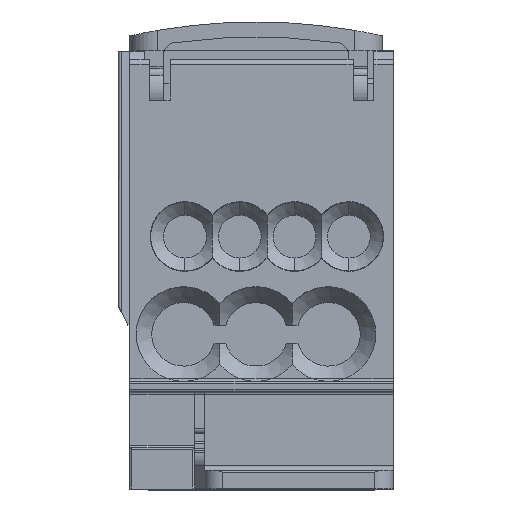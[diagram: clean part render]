
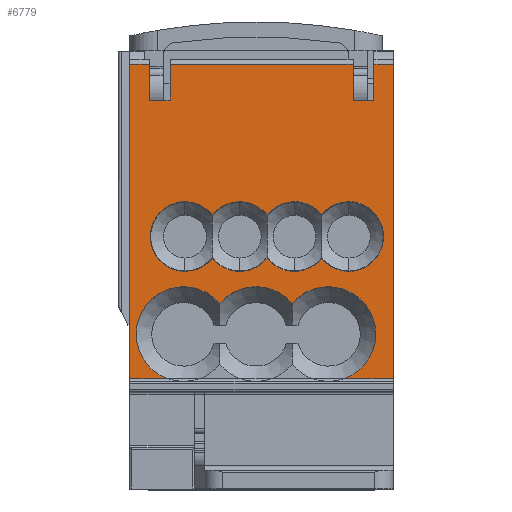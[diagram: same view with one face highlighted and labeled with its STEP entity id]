
A CAD part, top view. The second image highlights one B-rep face of the part: STEP entity #6779.
In plain terms, the highlighted planar face has unit normal (0, 0, 1).
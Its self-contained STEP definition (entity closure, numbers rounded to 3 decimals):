
#121=CIRCLE('',#7020,3.75);
#122=CIRCLE('',#7021,3.75);
#136=CIRCLE('',#7042,3.75);
#137=CIRCLE('',#7044,3.75);
#138=CIRCLE('',#7046,3.75);
#142=CIRCLE('',#7051,3.75);
#152=CIRCLE('',#7071,3.75);
#153=CIRCLE('',#7072,3.75);
#162=CIRCLE('',#7087,5.1);
#163=CIRCLE('',#7088,5.1);
#165=CIRCLE('',#7091,5.1);
#166=CIRCLE('',#7092,5.1);
#178=CIRCLE('',#7114,5.1);
#179=CIRCLE('',#7115,5.1);
#1937=ORIENTED_EDGE('',*,*,#2886,.T.);
#1938=ORIENTED_EDGE('',*,*,#2873,.F.);
#1939=ORIENTED_EDGE('',*,*,#2868,.T.);
#1940=ORIENTED_EDGE('',*,*,#2866,.T.);
#1941=ORIENTED_EDGE('',*,*,#2863,.F.);
#1942=ORIENTED_EDGE('',*,*,#2840,.T.);
#1943=ORIENTED_EDGE('',*,*,#2839,.T.);
#1944=ORIENTED_EDGE('',*,*,#2887,.T.);
#1945=ORIENTED_EDGE('',*,*,#3144,.F.);
#1946=ORIENTED_EDGE('',*,*,#3401,.T.);
#1947=ORIENTED_EDGE('',*,*,#3406,.F.);
#1948=ORIENTED_EDGE('',*,*,#2937,.T.);
#1949=ORIENTED_EDGE('',*,*,#2936,.T.);
#1950=ORIENTED_EDGE('',*,*,#2911,.T.);
#1951=ORIENTED_EDGE('',*,*,#2910,.T.);
#1952=ORIENTED_EDGE('',*,*,#2907,.T.);
#1953=ORIENTED_EDGE('',*,*,#2906,.T.);
#1954=ORIENTED_EDGE('',*,*,#3405,.F.);
#1955=ORIENTED_EDGE('',*,*,#3452,.T.);
#1956=ORIENTED_EDGE('',*,*,#3421,.F.);
#1957=ORIENTED_EDGE('',*,*,#3453,.F.);
#1958=ORIENTED_EDGE('',*,*,#3454,.T.);
#1959=ORIENTED_EDGE('',*,*,#3455,.T.);
#1960=ORIENTED_EDGE('',*,*,#3434,.F.);
#1961=ORIENTED_EDGE('',*,*,#3456,.F.);
#1962=ORIENTED_EDGE('',*,*,#3450,.F.);
#1963=ORIENTED_EDGE('',*,*,#3457,.T.);
#2839=EDGE_CURVE('',#3830,#3829,#121,.T.);
#2840=EDGE_CURVE('',#3831,#3830,#122,.T.);
#2863=EDGE_CURVE('',#3831,#3844,#136,.T.);
#2866=EDGE_CURVE('',#3845,#3844,#137,.T.);
#2868=EDGE_CURVE('',#3846,#3845,#138,.T.);
#2873=EDGE_CURVE('',#3846,#3847,#142,.T.);
#2886=EDGE_CURVE('',#3856,#3847,#152,.T.);
#2887=EDGE_CURVE('',#3829,#3856,#153,.T.);
#2906=EDGE_CURVE('',#3871,#3861,#162,.T.);
#2907=EDGE_CURVE('',#3872,#3871,#163,.T.);
#2910=EDGE_CURVE('',#3874,#3872,#165,.T.);
#2911=EDGE_CURVE('',#3875,#3874,#166,.T.);
#2936=EDGE_CURVE('',#3890,#3875,#178,.T.);
#2937=EDGE_CURVE('',#3891,#3890,#179,.T.);
#3144=EDGE_CURVE('',#4031,#4032,#4620,.T.);
#3401=EDGE_CURVE('',#4031,#4208,#4790,.T.);
#3405=EDGE_CURVE('',#4209,#3861,#4793,.T.);
#3406=EDGE_CURVE('',#3891,#4208,#4794,.T.);
#3421=EDGE_CURVE('',#4220,#4221,#4800,.T.);
#3434=EDGE_CURVE('',#4230,#4231,#4805,.T.);
#3450=EDGE_CURVE('',#4242,#4243,#4816,.T.);
#3452=EDGE_CURVE('',#4209,#4221,#4818,.T.);
#3453=EDGE_CURVE('',#4244,#4220,#4819,.T.);
#3454=EDGE_CURVE('',#4244,#4245,#4820,.T.);
#3455=EDGE_CURVE('',#4245,#4231,#4821,.T.);
#3456=EDGE_CURVE('',#4243,#4230,#4822,.T.);
#3457=EDGE_CURVE('',#4242,#4032,#4823,.T.);
#3829=VERTEX_POINT('',#10152);
#3830=VERTEX_POINT('',#10154);
#3831=VERTEX_POINT('',#10156);
#3844=VERTEX_POINT('',#10257);
#3845=VERTEX_POINT('',#10261);
#3846=VERTEX_POINT('',#10265);
#3847=VERTEX_POINT('',#10269);
#3856=VERTEX_POINT('',#10313);
#3861=VERTEX_POINT('',#10328);
#3871=VERTEX_POINT('',#10389);
#3872=VERTEX_POINT('',#10391);
#3874=VERTEX_POINT('',#10397);
#3875=VERTEX_POINT('',#10399);
#3890=VERTEX_POINT('',#10494);
#3891=VERTEX_POINT('',#10496);
#4031=VERTEX_POINT('',#10984);
#4032=VERTEX_POINT('',#10986);
#4208=VERTEX_POINT('',#11569);
#4209=VERTEX_POINT('',#11575);
#4220=VERTEX_POINT('',#11607);
#4221=VERTEX_POINT('',#11609);
#4230=VERTEX_POINT('',#11634);
#4231=VERTEX_POINT('',#11636);
#4242=VERTEX_POINT('',#11667);
#4243=VERTEX_POINT('',#11669);
#4244=VERTEX_POINT('',#11674);
#4245=VERTEX_POINT('',#11676);
#4620=LINE('',#10985,#5246);
#4790=LINE('',#11570,#5416);
#4793=LINE('',#11576,#5419);
#4794=LINE('',#11577,#5420);
#4800=LINE('',#11608,#5426);
#4805=LINE('',#11635,#5431);
#4816=LINE('',#11668,#5442);
#4818=LINE('',#11672,#5444);
#4819=LINE('',#11673,#5445);
#4820=LINE('',#11675,#5446);
#4821=LINE('',#11677,#5447);
#4822=LINE('',#11678,#5448);
#4823=LINE('',#11679,#5449);
#5246=VECTOR('',#8551,1000.);
#5416=VECTOR('',#9043,1000.);
#5419=VECTOR('',#9050,1000.);
#5420=VECTOR('',#9051,1000.);
#5426=VECTOR('',#9085,1000.);
#5431=VECTOR('',#9114,1000.);
#5442=VECTOR('',#9145,1000.);
#5444=VECTOR('',#9149,1000.);
#5445=VECTOR('',#9150,1000.);
#5446=VECTOR('',#9151,1000.);
#5447=VECTOR('',#9152,1000.);
#5448=VECTOR('',#9153,1000.);
#5449=VECTOR('',#9154,1000.);
#5879=EDGE_LOOP('',(#1937,#1938,#1939,#1940,#1941,#1942,#1943,#1944));
#5880=EDGE_LOOP('',(#1945,#1946,#1947,#1948,#1949,#1950,#1951,#1952,#1953,
#1954,#1955,#1956,#1957,#1958,#1959,#1960,#1961,#1962,#1963));
#6238=FACE_BOUND('',#5879,.T.);
#6239=FACE_BOUND('',#5880,.T.);
#6455=PLANE('',#7441);
#6779=ADVANCED_FACE('',(#6238,#6239),#6455,.F.);
#7020=AXIS2_PLACEMENT_3D('',#10153,#7945,#7946);
#7021=AXIS2_PLACEMENT_3D('',#10155,#7947,#7948);
#7042=AXIS2_PLACEMENT_3D('',#10256,#7994,#7995);
#7044=AXIS2_PLACEMENT_3D('',#10262,#8000,#8001);
#7046=AXIS2_PLACEMENT_3D('',#10266,#8005,#8006);
#7051=AXIS2_PLACEMENT_3D('',#10276,#8016,#8017);
#7071=AXIS2_PLACEMENT_3D('',#10312,#8058,#8059);
#7072=AXIS2_PLACEMENT_3D('',#10314,#8060,#8061);
#7087=AXIS2_PLACEMENT_3D('',#10388,#8095,#8096);
#7088=AXIS2_PLACEMENT_3D('',#10390,#8097,#8098);
#7091=AXIS2_PLACEMENT_3D('',#10396,#8104,#8105);
#7092=AXIS2_PLACEMENT_3D('',#10398,#8106,#8107);
#7114=AXIS2_PLACEMENT_3D('',#10493,#8156,#8157);
#7115=AXIS2_PLACEMENT_3D('',#10495,#8158,#8159);
#7441=AXIS2_PLACEMENT_3D('',#11671,#9147,#9148);
#7945=DIRECTION('',(0.,0.,-1.));
#7946=DIRECTION('',(0.,-1.,0.));
#7947=DIRECTION('',(0.,0.,-1.));
#7948=DIRECTION('',(0.78,-0.626,0.));
#7994=DIRECTION('',(0.,0.,1.));
#7995=DIRECTION('',(-0.78,-0.626,0.));
#8000=DIRECTION('',(0.,0.,-1.));
#8001=DIRECTION('',(-0.787,0.617,0.));
#8005=DIRECTION('',(0.,0.,-1.));
#8006=DIRECTION('',(-0.787,0.617,0.));
#8016=DIRECTION('',(0.,0.,1.));
#8017=DIRECTION('',(0.787,0.617,0.));
#8058=DIRECTION('',(0.,0.,-1.));
#8059=DIRECTION('',(0.,-1.,0.));
#8060=DIRECTION('',(0.,0.,-1.));
#8061=DIRECTION('',(0.787,-0.617,0.));
#8095=DIRECTION('',(0.,0.,-1.));
#8096=DIRECTION('',(0.,1.,0.));
#8097=DIRECTION('',(0.,0.,-1.));
#8098=DIRECTION('',(-0.765,0.644,0.));
#8104=DIRECTION('',(0.,0.,-1.));
#8105=DIRECTION('',(0.,1.,0.));
#8106=DIRECTION('',(0.,0.,-1.));
#8107=DIRECTION('',(-0.765,0.644,0.));
#8156=DIRECTION('',(0.,0.,-1.));
#8157=DIRECTION('',(0.,1.,0.));
#8158=DIRECTION('',(0.,0.,-1.));
#8159=DIRECTION('',(-0.338,-0.941,0.));
#8551=DIRECTION('',(1.,0.,0.));
#9043=DIRECTION('',(0.,-1.,0.));
#9050=DIRECTION('',(-1.,0.,0.));
#9051=DIRECTION('',(-1.,0.,0.));
#9085=DIRECTION('',(1.,0.,0.));
#9114=DIRECTION('',(1.,0.,0.));
#9145=DIRECTION('',(1.,0.,0.));
#9147=DIRECTION('',(0.,0.,-1.));
#9148=DIRECTION('',(0.,1.,0.));
#9149=DIRECTION('',(0.,1.,0.));
#9150=DIRECTION('',(0.,1.,0.));
#9151=DIRECTION('',(-1.,0.,0.));
#9152=DIRECTION('',(0.,1.,0.));
#9153=DIRECTION('',(0.,1.,0.));
#9154=DIRECTION('',(0.,1.,0.));
#10152=CARTESIAN_POINT('',(0.6,24.885,0.));
#10153=CARTESIAN_POINT('',(3.55,27.2,0.));
#10154=CARTESIAN_POINT('',(3.55,23.45,0.));
#10155=CARTESIAN_POINT('',(3.55,27.2,0.));
#10156=CARTESIAN_POINT('',(6.475,24.853,0.));
#10256=CARTESIAN_POINT('',(9.4,27.2,0.));
#10257=CARTESIAN_POINT('',(6.475,29.547,0.));
#10261=CARTESIAN_POINT('',(0.6,29.515,0.));
#10262=CARTESIAN_POINT('',(3.55,27.2,0.));
#10265=CARTESIAN_POINT('',(-5.3,29.515,0.));
#10266=CARTESIAN_POINT('',(-2.35,27.2,0.));
#10269=CARTESIAN_POINT('',(-5.3,24.885,0.));
#10276=CARTESIAN_POINT('',(-8.25,27.2,0.));
#10312=CARTESIAN_POINT('',(-2.35,27.2,0.));
#10313=CARTESIAN_POINT('',(-2.35,23.45,0.));
#10314=CARTESIAN_POINT('',(-2.35,27.2,0.));
#10328=CARTESIAN_POINT('',(8.923,11.9,0.));
#10388=CARTESIAN_POINT('',(7.2,16.7,0.));
#10389=CARTESIAN_POINT('',(7.2,21.8,0.));
#10390=CARTESIAN_POINT('',(7.2,16.7,0.));
#10391=CARTESIAN_POINT('',(3.3,19.986,0.));
#10396=CARTESIAN_POINT('',(-0.6,16.7,0.));
#10397=CARTESIAN_POINT('',(-0.6,21.8,0.));
#10398=CARTESIAN_POINT('',(-0.6,16.7,0.));
#10399=CARTESIAN_POINT('',(-4.5,19.986,0.));
#10493=CARTESIAN_POINT('',(-8.4,16.7,0.));
#10494=CARTESIAN_POINT('',(-8.4,21.8,0.));
#10495=CARTESIAN_POINT('',(-8.4,16.7,0.));
#10496=CARTESIAN_POINT('',(-10.123,11.9,0.));
#10984=CARTESIAN_POINT('',(-14.2,45.73,0.));
#10985=CARTESIAN_POINT('',(-14.2,45.73,0.));
#10986=CARTESIAN_POINT('',(-12.1,45.73,0.));
#11569=CARTESIAN_POINT('',(-14.2,11.9,0.));
#11570=CARTESIAN_POINT('',(-14.2,45.73,0.));
#11575=CARTESIAN_POINT('',(14.2,11.9,0.));
#11576=CARTESIAN_POINT('',(14.2,11.9,0.));
#11577=CARTESIAN_POINT('',(-10.123,11.9,0.));
#11607=CARTESIAN_POINT('',(12.1,45.73,0.));
#11608=CARTESIAN_POINT('',(12.1,45.73,0.));
#11609=CARTESIAN_POINT('',(14.2,45.73,0.));
#11634=CARTESIAN_POINT('',(-9.85,45.73,0.));
#11635=CARTESIAN_POINT('',(-9.85,45.73,0.));
#11636=CARTESIAN_POINT('',(9.85,45.73,0.));
#11667=CARTESIAN_POINT('',(-12.1,41.9,0.));
#11668=CARTESIAN_POINT('',(-12.1,41.9,0.));
#11669=CARTESIAN_POINT('',(-9.85,41.9,0.));
#11671=CARTESIAN_POINT('',(50.,45.73,0.));
#11672=CARTESIAN_POINT('',(14.2,11.9,0.));
#11673=CARTESIAN_POINT('',(12.1,41.9,0.));
#11674=CARTESIAN_POINT('',(12.1,41.9,0.));
#11675=CARTESIAN_POINT('',(12.1,41.9,0.));
#11676=CARTESIAN_POINT('',(9.85,41.9,0.));
#11677=CARTESIAN_POINT('',(9.85,41.9,0.));
#11678=CARTESIAN_POINT('',(-9.85,41.9,0.));
#11679=CARTESIAN_POINT('',(-12.1,41.9,0.));
